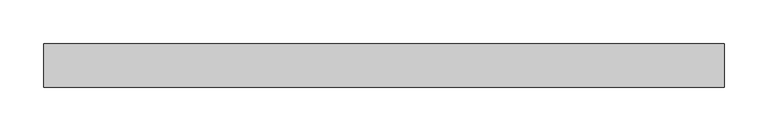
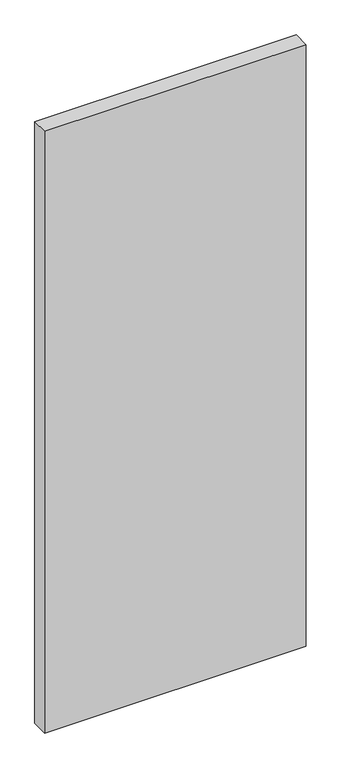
"""IFC4 building model written with IfcOpenShell, lengths in millimetres: plate geometry, Системная панель : Стекло(50мм)."""

from ifc_helpers import new_model, si_unit, origin, origin_with_axes, place, context, project, spatial, polyline, outline, extrude, source, transform, mapped, element, save


def plate_5e9edd35(model_context):
    return source(origin(), model_context, "Body", "SweptSolid", [
        extrude(outline(polyline([(390.9084215, -25.0), (-390.9084215, -25.0), (-390.9084215, 25.0), (390.9084215, 25.0), (390.9084215, -25.0)])), origin_with_axes(), (0.0, 0.0, 1.0), 1900.0),
    ])


if __name__ == "__main__":
    model = new_model("IFC4")
    model_context = context("Model", 3, world=origin())
    ifc_project = project(units=[si_unit("LENGTHUNIT", "METRE", prefix="MILLI")], contexts=[model_context])
    site = spatial("IfcSite", under=ifc_project)
    building = spatial("IfcBuilding", under=site)
    placement = place(None, origin())
    plate_shape = plate_5e9edd35(model_context)
    element("IfcPlate", 1, ObjectType="Системная панель : Стекло(50мм)", at=placement, inside=building, context=model_context, shape_type="MappedRepresentation", body=[
        mapped(plate_shape, transform((0.0, 0.0, 0.0), x_axis=(1.0, 0.0, 0.0), y_axis=(0.0, 1.0, 0.0), z_axis=(0.0, 0.0, 1.0))),
    ])
    save(model, "model.ifc")
